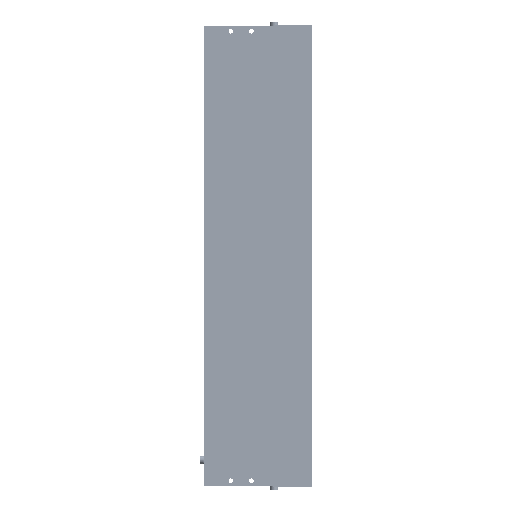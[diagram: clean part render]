
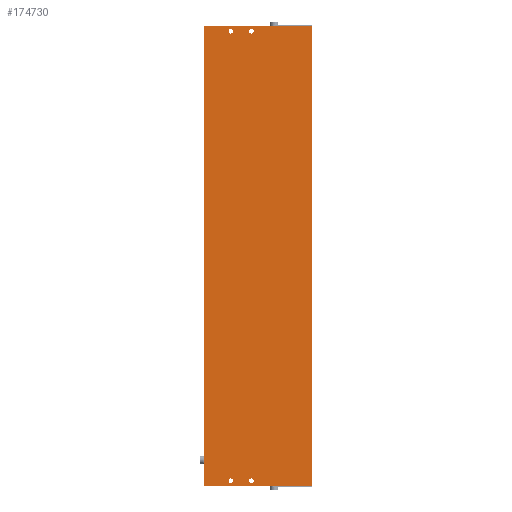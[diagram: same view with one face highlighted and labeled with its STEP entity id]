
A CAD part, front view. The second image highlights one B-rep face of the part: STEP entity #174730.
In plain terms, the highlighted planar face has unit normal (0, -1, 0).
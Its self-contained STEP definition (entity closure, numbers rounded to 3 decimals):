
#133845=DIRECTION('',(1.,0.,0.));
#133846=VECTOR('',#133845,105.);
#133847=CARTESIAN_POINT('',(-52.5,-16.9,0.));
#133848=LINE('',#133847,#133846);
#134037=DIRECTION('',(0.,0.,1.));
#134038=VECTOR('',#134037,448.);
#134039=CARTESIAN_POINT('',(52.5,-16.9,0.));
#134040=LINE('',#134039,#134038);
#134045=CARTESIAN_POINT('',(-6.5,-16.9,443.));
#134046=DIRECTION('',(0.,-1.,0.));
#134047=DIRECTION('',(0.,0.,-1.));
#134048=AXIS2_PLACEMENT_3D('',#134045,#134046,#134047);
#134050=CARTESIAN_POINT('',(-6.5,-16.9,443.));
#134051=DIRECTION('',(0.,-1.,0.));
#134052=DIRECTION('',(0.,0.,1.));
#134053=AXIS2_PLACEMENT_3D('',#134050,#134051,#134052);
#134055=CARTESIAN_POINT('',(-26.5,-16.9,443.));
#134056=DIRECTION('',(0.,-1.,0.));
#134057=DIRECTION('',(0.,0.,-1.));
#134058=AXIS2_PLACEMENT_3D('',#134055,#134056,#134057);
#134060=CARTESIAN_POINT('',(-26.5,-16.9,443.));
#134061=DIRECTION('',(0.,-1.,0.));
#134062=DIRECTION('',(0.,0.,1.));
#134063=AXIS2_PLACEMENT_3D('',#134060,#134061,#134062);
#134065=CARTESIAN_POINT('',(-6.5,-16.9,5.));
#134066=DIRECTION('',(0.,-1.,0.));
#134067=DIRECTION('',(0.,0.,1.));
#134068=AXIS2_PLACEMENT_3D('',#134065,#134066,#134067);
#134070=CARTESIAN_POINT('',(-6.5,-16.9,5.));
#134071=DIRECTION('',(0.,-1.,0.));
#134072=DIRECTION('',(0.,0.,-1.));
#134073=AXIS2_PLACEMENT_3D('',#134070,#134071,#134072);
#134075=CARTESIAN_POINT('',(-26.5,-16.9,5.));
#134076=DIRECTION('',(0.,-1.,0.));
#134077=DIRECTION('',(0.,0.,1.));
#134078=AXIS2_PLACEMENT_3D('',#134075,#134076,#134077);
#134080=CARTESIAN_POINT('',(-26.5,-16.9,5.));
#134081=DIRECTION('',(0.,-1.,0.));
#134082=DIRECTION('',(0.,0.,-1.));
#134083=AXIS2_PLACEMENT_3D('',#134080,#134081,#134082);
#134089=DIRECTION('',(0.,0.,-1.));
#134090=VECTOR('',#134089,448.);
#134091=CARTESIAN_POINT('',(-52.5,-16.9,448.));
#134092=LINE('',#134091,#134090);
#134724=DIRECTION('',(-1.,0.,0.));
#134725=VECTOR('',#134724,105.);
#134726=CARTESIAN_POINT('',(52.5,-16.9,448.));
#134727=LINE('',#134726,#134725);
#166695=CARTESIAN_POINT('',(-52.5,-16.9,0.));
#166696=VERTEX_POINT('',#166695);
#166697=CARTESIAN_POINT('',(52.5,-16.9,0.));
#166698=VERTEX_POINT('',#166697);
#166781=CARTESIAN_POINT('',(52.5,-16.9,448.));
#166782=VERTEX_POINT('',#166781);
#166783=CARTESIAN_POINT('',(-52.5,-16.9,448.));
#166784=VERTEX_POINT('',#166783);
#166785=CARTESIAN_POINT('',(-6.5,-16.9,440.75));
#166786=CARTESIAN_POINT('',(-6.5,-16.9,445.25));
#166787=VERTEX_POINT('',#166785);
#166788=VERTEX_POINT('',#166786);
#166789=CARTESIAN_POINT('',(-26.5,-16.9,440.75));
#166790=CARTESIAN_POINT('',(-26.5,-16.9,445.25));
#166791=VERTEX_POINT('',#166789);
#166792=VERTEX_POINT('',#166790);
#166793=CARTESIAN_POINT('',(-6.5,-16.9,7.25));
#166794=CARTESIAN_POINT('',(-6.5,-16.9,2.75));
#166795=VERTEX_POINT('',#166793);
#166796=VERTEX_POINT('',#166794);
#166797=CARTESIAN_POINT('',(-26.5,-16.9,7.25));
#166798=CARTESIAN_POINT('',(-26.5,-16.9,2.75));
#166799=VERTEX_POINT('',#166797);
#166800=VERTEX_POINT('',#166798);
#174693=CARTESIAN_POINT('',(-53.,-16.9,0.));
#174694=DIRECTION('',(0.,-1.,0.));
#174695=DIRECTION('',(0.,0.,-1.));
#174696=AXIS2_PLACEMENT_3D('',#174693,#174694,#174695);
#174697=PLANE('',#174696);
#174698=ORIENTED_EDGE('',*,*,#174554,.F.);
#174700=ORIENTED_EDGE('',*,*,#174699,.F.);
#174702=ORIENTED_EDGE('',*,*,#174701,.F.);
#174703=ORIENTED_EDGE('',*,*,#174684,.F.);
#174704=EDGE_LOOP('',(#174698,#174700,#174702,#174703));
#174705=FACE_OUTER_BOUND('',#174704,.F.);
#174707=ORIENTED_EDGE('',*,*,#174706,.T.);
#174709=ORIENTED_EDGE('',*,*,#174708,.T.);
#174710=EDGE_LOOP('',(#174707,#174709));
#174711=FACE_BOUND('',#174710,.F.);
#174713=ORIENTED_EDGE('',*,*,#174712,.T.);
#174715=ORIENTED_EDGE('',*,*,#174714,.T.);
#174716=EDGE_LOOP('',(#174713,#174715));
#174717=FACE_BOUND('',#174716,.F.);
#174719=ORIENTED_EDGE('',*,*,#174718,.T.);
#174721=ORIENTED_EDGE('',*,*,#174720,.T.);
#174722=EDGE_LOOP('',(#174719,#174721));
#174723=FACE_BOUND('',#174722,.F.);
#174725=ORIENTED_EDGE('',*,*,#174724,.T.);
#174727=ORIENTED_EDGE('',*,*,#174726,.T.);
#174728=EDGE_LOOP('',(#174725,#174727));
#174729=FACE_BOUND('',#174728,.F.);
#174730=ADVANCED_FACE('',(#174705,#174711,#174717,#174723,#174729),#174697,.T.);
#134049=CIRCLE('',#134048,2.25);
#134054=CIRCLE('',#134053,2.25);
#134059=CIRCLE('',#134058,2.25);
#134064=CIRCLE('',#134063,2.25);
#134069=CIRCLE('',#134068,2.25);
#134074=CIRCLE('',#134073,2.25);
#134079=CIRCLE('',#134078,2.25);
#134084=CIRCLE('',#134083,2.25);
#174554=EDGE_CURVE('',#166696,#166698,#133848,.T.);
#174684=EDGE_CURVE('',#166698,#166782,#134040,.T.);
#174699=EDGE_CURVE('',#166784,#166696,#134092,.T.);
#174701=EDGE_CURVE('',#166782,#166784,#134727,.T.);
#174706=EDGE_CURVE('',#166787,#166788,#134049,.T.);
#174708=EDGE_CURVE('',#166788,#166787,#134054,.T.);
#174712=EDGE_CURVE('',#166791,#166792,#134059,.T.);
#174714=EDGE_CURVE('',#166792,#166791,#134064,.T.);
#174718=EDGE_CURVE('',#166795,#166796,#134069,.T.);
#174720=EDGE_CURVE('',#166796,#166795,#134074,.T.);
#174724=EDGE_CURVE('',#166799,#166800,#134079,.T.);
#174726=EDGE_CURVE('',#166800,#166799,#134084,.T.);
